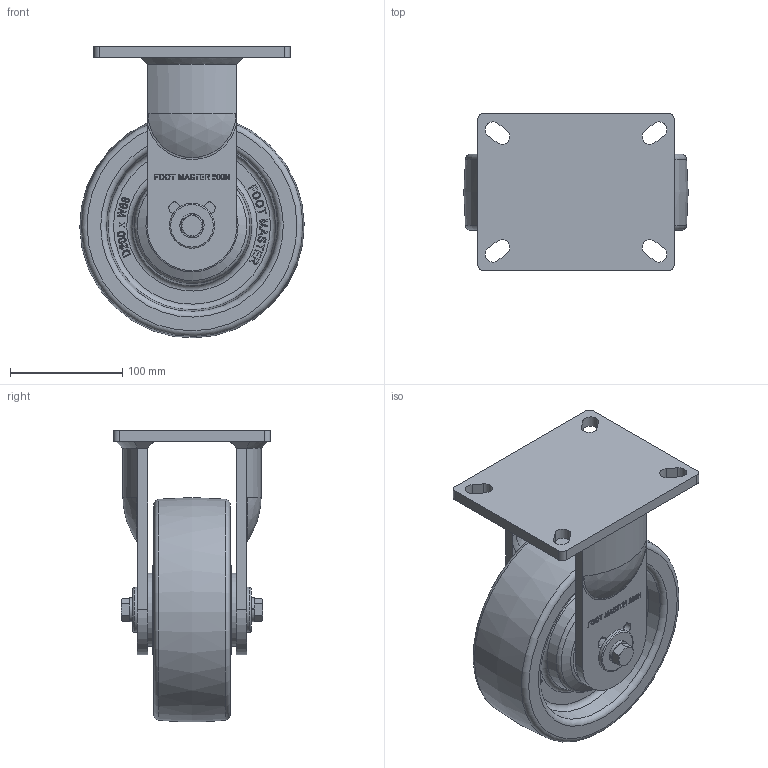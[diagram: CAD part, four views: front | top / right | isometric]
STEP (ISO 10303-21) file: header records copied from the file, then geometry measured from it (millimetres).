
FILE_DESCRIPTION(/* description */ (''),/* implementation_level */ '2;1');
FILE_NAME(/* name */ 'Y:\1.기술연구소\2.연구개발 진행중\133.고하중캐스터 브레이크 타입 변경건_2025.11.03\1.도면\4.홈페이지용 도면\01. 3D\GXT-200 SERIES\GXT-200-STEP\GXT-200N-ARF-NYD.stp',/* time_stamp */ '2026-07-21T19:17:43+09:00',/* author */ ('장용하'),/* organization */ (''),/* preprocessor_version */ 'ST-DEVELOPER v18.1',/* originating_system */ 'Autodesk Inventor 2021',/* authorisation */ '');
FILE_SCHEMA (('CONFIG_CONTROL_DESIGN'));
Length unit declared in the file: millimetre
Products named in the file (1): GXT-200N-ARF-NYD
Bounding box: 199.96 x 140 x 259.82 mm (x, y, z)
Volume: 2252438.9 mm3; surface area: 237888.3 mm2
Topology: 1 solids, 1 shells, 964 faces, 2636 edges, 1752 vertices
Faces by surface type: plane 454, bspline 410, cylinder 56, torus 20, cone 20, sphere 4
Full cylindrical faces by diameter (mm): 12 x2, 40 x2, 65 x2
Entity records: 31374 total; most frequent: CARTESIAN_POINT 9512, ORIENTED_EDGE 5272, DIRECTION 3159, EDGE_CURVE 2636, VERTEX_POINT 1752, LINE 1535, VECTOR 1535, EDGE_LOOP 1056
